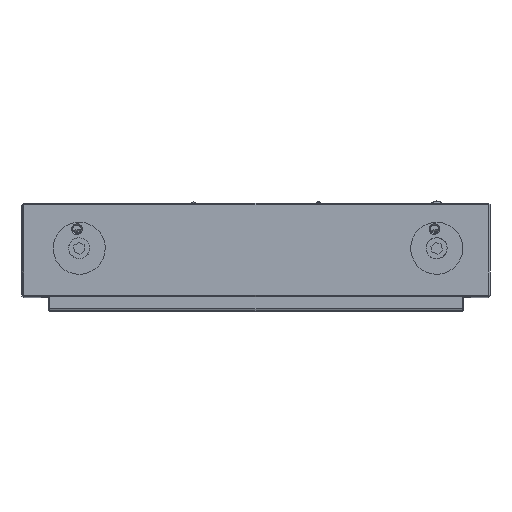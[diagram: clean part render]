
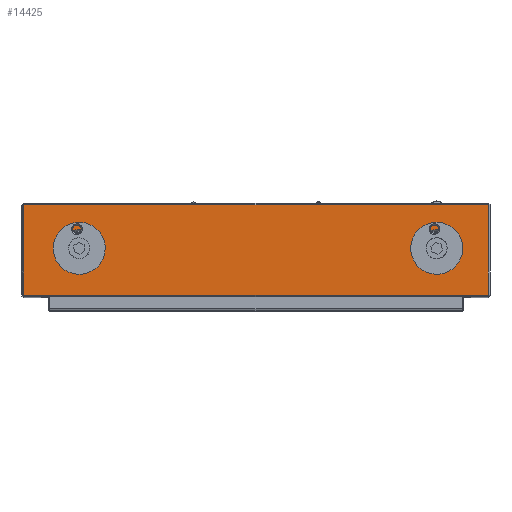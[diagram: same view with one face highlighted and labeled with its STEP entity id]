
A CAD part, top view. The second image highlights one B-rep face of the part: STEP entity #14425.
In plain terms, the highlighted planar face has unit normal (0, 0, 1) as drawn and (0, -1, 0) by its records, which use the part's own axes.
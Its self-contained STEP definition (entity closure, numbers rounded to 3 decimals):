
#512 = ORIENTED_EDGE ( 'NONE', *, *, #1742, .T. ) ;
#531 = AXIS2_PLACEMENT_3D ( 'NONE', #18568, #5480, #3658 ) ;
#648 = EDGE_CURVE ( 'NONE', #12024, #6103, #21814, .T. ) ;
#1038 = DIRECTION ( 'NONE',  ( 0., 0., 1. ) ) ;
#1041 = EDGE_CURVE ( 'NONE', #9985, #13161, #19417, .T. ) ;
#1351 = VECTOR ( 'NONE', #12400, 1000. ) ;
#1352 = CARTESIAN_POINT ( 'NONE',  ( -44.7, -52.317, 17.7 ) ) ;
#1434 = ORIENTED_EDGE ( 'NONE', *, *, #1041, .T. ) ;
#1509 = CARTESIAN_POINT ( 'NONE',  ( 37.06, -52.317, 11.656 ) ) ;
#1672 = LINE ( 'NONE', #16315, #4701 ) ;
#1742 = EDGE_CURVE ( 'NONE', #2245, #19035, #12156, .T. ) ;
#2245 = VERTEX_POINT ( 'NONE', #1352 ) ;
#2642 = VERTEX_POINT ( 'NONE', #5419 ) ;
#2719 = CARTESIAN_POINT ( 'NONE',  ( -45., -52.317, 18. ) ) ;
#3064 = CARTESIAN_POINT ( 'NONE',  ( -44.7, -52.317, 18. ) ) ;
#3506 = DIRECTION ( 'NONE',  ( 0., 0., 1. ) ) ;
#3658 = DIRECTION ( 'NONE',  ( 0., 0., 1. ) ) ;
#3846 = CARTESIAN_POINT ( 'NONE',  ( 38.028, -52.317, 10.788 ) ) ;
#3857 = CARTESIAN_POINT ( 'NONE',  ( -34., -52.317, 12.9 ) ) ;
#3952 = AXIS2_PLACEMENT_3D ( 'NONE', #5572, #20116, #3506 ) ;
#4073 = FACE_BOUND ( 'NONE', #16013, .T. ) ;
#4114 = DIRECTION ( 'NONE',  ( 0., 1., 0. ) ) ;
#4658 = FACE_BOUND ( 'NONE', #7390, .T. ) ;
#4701 = VECTOR ( 'NONE', #10646, 1000. ) ;
#5036 = VERTEX_POINT ( 'NONE', #8494 ) ;
#5132 = DIRECTION ( 'NONE',  ( 0., 0., 1. ) ) ;
#5419 = CARTESIAN_POINT ( 'NONE',  ( 34.75, -52.317, 5.7 ) ) ;
#5480 = DIRECTION ( 'NONE',  ( 0., 1., 0. ) ) ;
#5572 = CARTESIAN_POINT ( 'NONE',  ( 34.75, -52.317, 9.3 ) ) ;
#5766 = DIRECTION ( 'NONE',  ( 0., 0., 1. ) ) ;
#5998 = EDGE_CURVE ( 'NONE', #19035, #16447, #8711, .T. ) ;
#6049 = DIRECTION ( 'NONE',  ( 0., 0., 1. ) ) ;
#6103 = VERTEX_POINT ( 'NONE', #3857 ) ;
#6355 = FACE_OUTER_BOUND ( 'NONE', #21285, .T. ) ;
#6897 = DIRECTION ( 'NONE',  ( 1., 0., 0. ) ) ;
#7390 = EDGE_LOOP ( 'NONE', ( #1434, #12126, #23312, #23599, #9056 ) ) ;
#7475 = CARTESIAN_POINT ( 'NONE',  ( -44.7, -52.317, 0.3 ) ) ;
#7502 = CIRCLE ( 'NONE', #531, 3.6 ) ;
#7534 = AXIS2_PLACEMENT_3D ( 'NONE', #17588, #12023, #5132 ) ;
#8494 = CARTESIAN_POINT ( 'NONE',  ( 44.7, -52.317, 17.7 ) ) ;
#8612 = CARTESIAN_POINT ( 'NONE',  ( 32.44, -52.317, 11.656 ) ) ;
#8711 = LINE ( 'NONE', #20111, #20043 ) ;
#9056 = ORIENTED_EDGE ( 'NONE', *, *, #15649, .T. ) ;
#9630 = CARTESIAN_POINT ( 'NONE',  ( 34.75, -52.317, 9.3 ) ) ;
#9985 = VERTEX_POINT ( 'NONE', #13171 ) ;
#10646 = DIRECTION ( 'NONE',  ( 0., 0., 1. ) ) ;
#10845 = EDGE_CURVE ( 'NONE', #16447, #5036, #1672, .T. ) ;
#10954 = AXIS2_PLACEMENT_3D ( 'NONE', #9630, #22453, #5766 ) ;
#10989 = AXIS2_PLACEMENT_3D ( 'NONE', #11406, #4114, #6049 ) ;
#11406 = CARTESIAN_POINT ( 'NONE',  ( -34., -52.317, 9.3 ) ) ;
#11528 = CARTESIAN_POINT ( 'NONE',  ( 31.472, -52.317, 10.788 ) ) ;
#11806 = LINE ( 'NONE', #15062, #21382 ) ;
#11840 = EDGE_CURVE ( 'NONE', #5036, #2245, #11806, .T. ) ;
#12023 = DIRECTION ( 'NONE',  ( 0., 1., 0. ) ) ;
#12024 = VERTEX_POINT ( 'NONE', #23033 ) ;
#12079 = EDGE_CURVE ( 'NONE', #13161, #17471, #14019, .T. ) ;
#12126 = ORIENTED_EDGE ( 'NONE', *, *, #12079, .T. ) ;
#12156 = LINE ( 'NONE', #3064, #1351 ) ;
#12248 = DIRECTION ( 'NONE',  ( 0., 0., 1. ) ) ;
#12400 = DIRECTION ( 'NONE',  ( 0., 0., -1. ) ) ;
#13161 = VERTEX_POINT ( 'NONE', #23131 ) ;
#13171 = CARTESIAN_POINT ( 'NONE',  ( 33.327, -52.317, 12.607 ) ) ;
#13364 = ORIENTED_EDGE ( 'NONE', *, *, #20734, .T. ) ;
#14019 = CIRCLE ( 'NONE', #19445, 1.3 ) ;
#14425 = ADVANCED_FACE ( 'NONE', ( #4073, #4658, #6355 ), #21019, .F. ) ;
#14453 = DIRECTION ( 'NONE',  ( 0., 1., 0. ) ) ;
#14600 = EDGE_CURVE ( 'NONE', #17471, #2642, #7502, .T. ) ;
#14659 = ORIENTED_EDGE ( 'NONE', *, *, #5998, .T. ) ;
#14778 = ORIENTED_EDGE ( 'NONE', *, *, #648, .T. ) ;
#15062 = CARTESIAN_POINT ( 'NONE',  ( -45., -52.317, 17.7 ) ) ;
#15649 = EDGE_CURVE ( 'NONE', #21047, #9985, #23284, .T. ) ;
#15995 = DIRECTION ( 'NONE',  ( 0., 1., 0. ) ) ;
#16013 = EDGE_LOOP ( 'NONE', ( #14778, #13364 ) ) ;
#16315 = CARTESIAN_POINT ( 'NONE',  ( 44.7, -52.317, 18. ) ) ;
#16447 = VERTEX_POINT ( 'NONE', #21131 ) ;
#17172 = ORIENTED_EDGE ( 'NONE', *, *, #10845, .T. ) ;
#17291 = CIRCLE ( 'NONE', #7534, 3.6 ) ;
#17471 = VERTEX_POINT ( 'NONE', #3846 ) ;
#17573 = ORIENTED_EDGE ( 'NONE', *, *, #11840, .T. ) ;
#17588 = CARTESIAN_POINT ( 'NONE',  ( -34., -52.317, 9.3 ) ) ;
#17909 = AXIS2_PLACEMENT_3D ( 'NONE', #8612, #15995, #12248 ) ;
#18568 = CARTESIAN_POINT ( 'NONE',  ( 34.75, -52.317, 9.3 ) ) ;
#19035 = VERTEX_POINT ( 'NONE', #7475 ) ;
#19190 = DIRECTION ( 'NONE',  ( -1., 0., 0. ) ) ;
#19417 = CIRCLE ( 'NONE', #3952, 3.6 ) ;
#19445 = AXIS2_PLACEMENT_3D ( 'NONE', #1509, #14453, #21743 ) ;
#20043 = VECTOR ( 'NONE', #6897, 1000. ) ;
#20111 = CARTESIAN_POINT ( 'NONE',  ( -45., -52.317, 0.3 ) ) ;
#20116 = DIRECTION ( 'NONE',  ( 0., 1., 0. ) ) ;
#20240 = CIRCLE ( 'NONE', #10954, 3.6 ) ;
#20734 = EDGE_CURVE ( 'NONE', #6103, #12024, #17291, .T. ) ;
#21019 = PLANE ( 'NONE',  #22206 ) ;
#21047 = VERTEX_POINT ( 'NONE', #11528 ) ;
#21131 = CARTESIAN_POINT ( 'NONE',  ( 44.7, -52.317, 0.3 ) ) ;
#21139 = DIRECTION ( 'NONE',  ( 0., 1., 0. ) ) ;
#21285 = EDGE_LOOP ( 'NONE', ( #17573, #512, #14659, #17172 ) ) ;
#21382 = VECTOR ( 'NONE', #19190, 1000. ) ;
#21743 = DIRECTION ( 'NONE',  ( 0., 0., 1. ) ) ;
#21814 = CIRCLE ( 'NONE', #10989, 3.6 ) ;
#21860 = EDGE_CURVE ( 'NONE', #2642, #21047, #20240, .T. ) ;
#22206 = AXIS2_PLACEMENT_3D ( 'NONE', #2719, #21139, #1038 ) ;
#22453 = DIRECTION ( 'NONE',  ( 0., 1., 0. ) ) ;
#23033 = CARTESIAN_POINT ( 'NONE',  ( -34., -52.317, 5.7 ) ) ;
#23131 = CARTESIAN_POINT ( 'NONE',  ( 36.173, -52.317, 12.607 ) ) ;
#23284 = CIRCLE ( 'NONE', #17909, 1.3 ) ;
#23312 = ORIENTED_EDGE ( 'NONE', *, *, #14600, .T. ) ;
#23599 = ORIENTED_EDGE ( 'NONE', *, *, #21860, .T. ) ;
